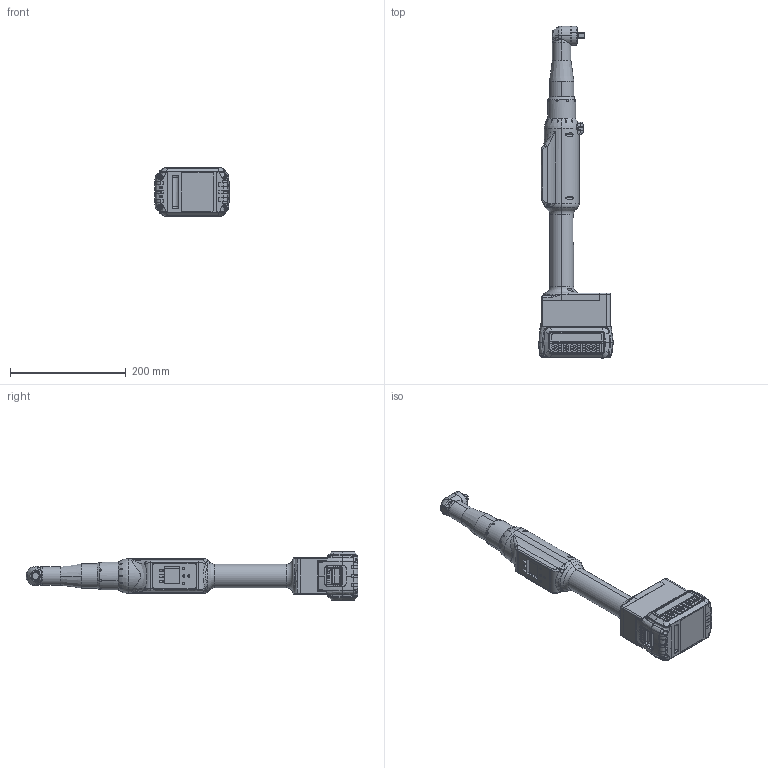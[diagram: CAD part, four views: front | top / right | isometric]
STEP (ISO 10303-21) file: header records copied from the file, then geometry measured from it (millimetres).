
FILE_DESCRIPTION (( 'STEP AP214' ), '1' );
FILE_NAME ('50无线电枪总装.STEP', '2024-09-09T01:43:51', ( 'Windows 用户' ), ( 'Microsoft' ), 'SwSTEP 2.0', 'SolidWorks 2021', '' );
FILE_SCHEMA (( 'AUTOMOTIVE_DESIGN' ));
Length unit declared in the file: millimetre
Products named in the file (1): 50拸盄萇Л軞蚾
Bounding box: 128.75 x 572.78 x 84.7 mm (x, y, z)
Surface area: 163310.9 mm2 (no closed solid volume)
Topology: 0 solids, 93 shells, 970 faces, 4420 edges, 3440 vertices
Faces by surface type: plane 411, bspline 247, cylinder 222, torus 47, cone 31, sphere 12
Entity records: 76363 total; most frequent: CARTESIAN_POINT 33943, ORIENTED_EDGE 6094, DIRECTION 5387, EDGE_CURVE 4399, VERTEX_POINT 3437, VECTOR 2475, LINE 2475, AXIS2_PLACEMENT_3D 1456
